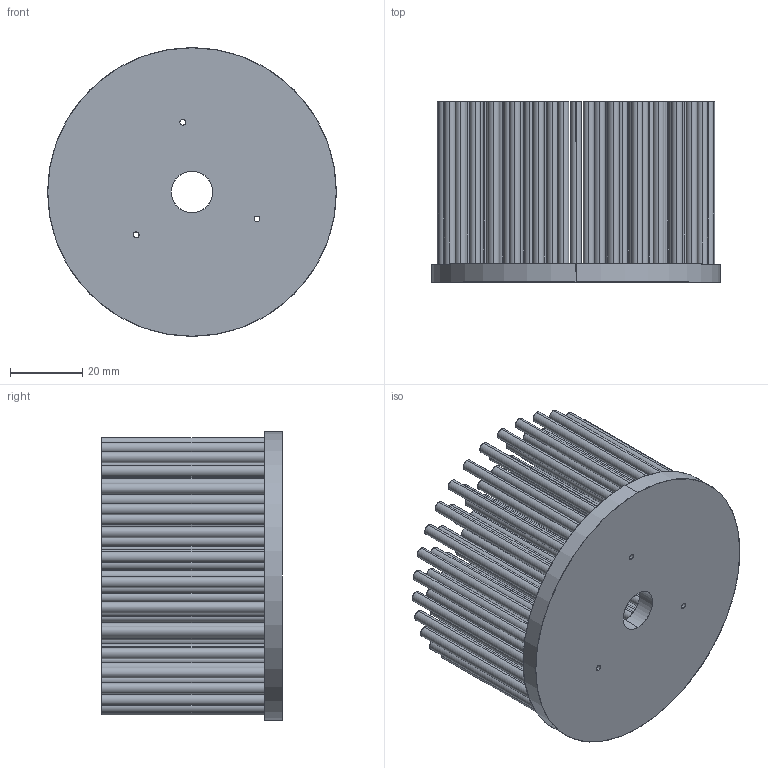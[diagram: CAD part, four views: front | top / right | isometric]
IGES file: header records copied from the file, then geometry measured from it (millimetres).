
Start section: SolidWorks IGES file using analytic representation for surfaces
Global section: file name: C:\Documents and Settings\Administrator\桌面\27-06-2012\M2\XSA-67-M2 (O80mm X 50mm).IGS,1; native system: 5HSolidWorks 2011; preprocessor: SolidWorks 2011; author: Administrator; date: 120627.165855; units: millimetre
Bounding box: 80 x 50 x 80 mm (x, y, z)
Surface area: 72654.2 mm2 (no closed solid volume)
Topology: 0 solids, 0 shells, 447 faces, 10768 edges, 10768 vertices
Faces by surface type: revolution 300, bspline 147
